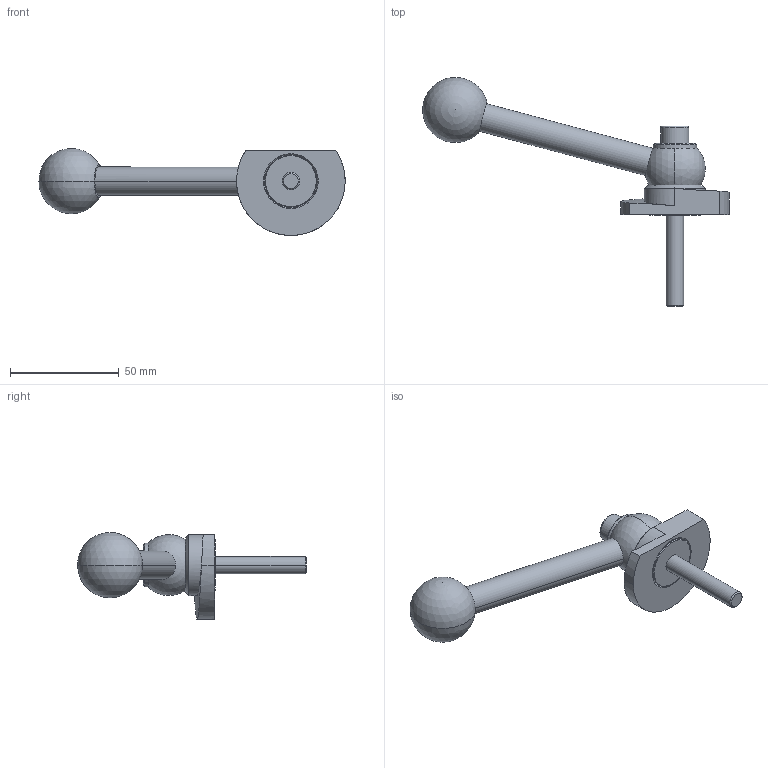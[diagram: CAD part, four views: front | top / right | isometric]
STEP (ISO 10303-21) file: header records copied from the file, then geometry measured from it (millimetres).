
FILE_DESCRIPTION (( 'STEP AP214' ), '1' );
FILE_NAME ('918.1-50-KVS-L-42.step', '2024-05-15T13:02:14', ( '' ), ( '' ), 'SwSTEP 2.0', 'SolidWorks 2022', '' );
FILE_SCHEMA (( 'AUTOMOTIVE_DESIGN' ));
Length unit declared in the file: millimetre
Products named in the file (1): 918.1-50-KVS-L-42
Bounding box: 140.94 x 105.31 x 40 mm (x, y, z)
Volume: 53568.9 mm3; surface area: 16545.3 mm2
Topology: 1 solids, 1 shells, 62 faces, 140 edges, 88 vertices
Faces by surface type: plane 20, cylinder 19, cone 14, sphere 4, bspline 3, torus 2
Entity records: 2001 total; most frequent: CARTESIAN_POINT 613, DIRECTION 305, ORIENTED_EDGE 260, EDGE_CURVE 130, AXIS2_PLACEMENT_3D 125, VERTEX_POINT 82, EDGE_LOOP 74, CIRCLE 65
